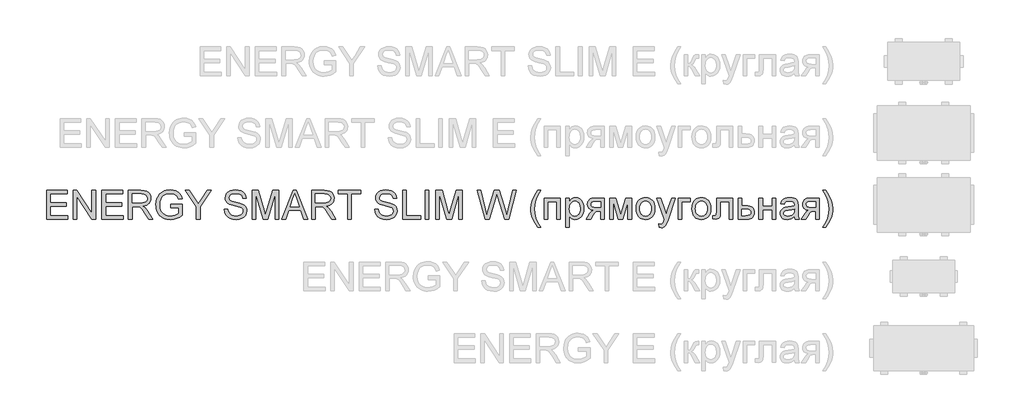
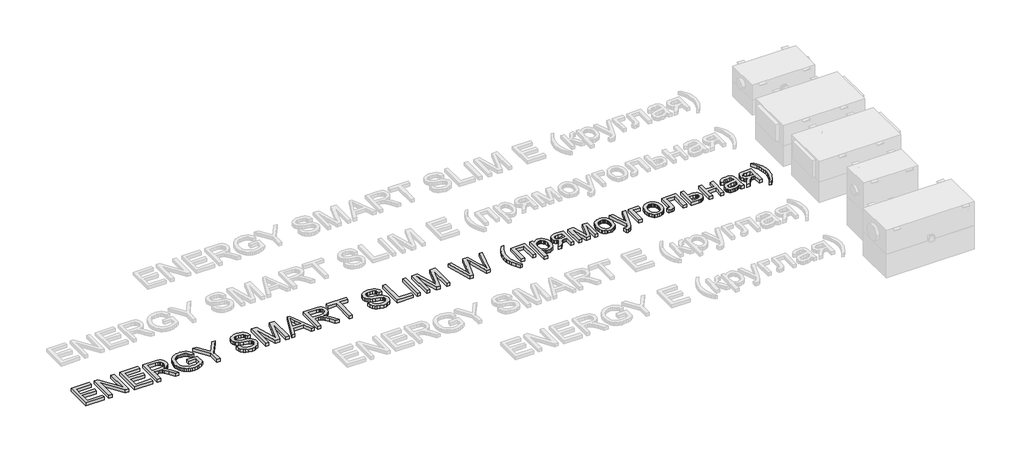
# One storey, part 25 of 28: 1 proxy.
"""IFC4 building model written with IfcOpenShell, lengths in millimetres."""

import ifcopenshell
import ifcopenshell.guid

model = None  # the IFC model being written
_history = None  # IfcOwnerHistory: only IFC2X3 demands one
_inside = {}  # id of a spatial element -> (the spatial element, [elements in it])
_under = {}  # id of a project, library or spatial element -> (it, [spatial elements below it])
_declared = {}  # id of a project -> (the project, [libraries it declares])
_typed = {}  # id of a type object -> (the type object, [elements of that type])
_made_of = {}  # id of a material, layer set ... -> (it, [elements and type objects made of it])


def new_model(schema):
    """Start an empty IFC model of exactly this schema.

    Asked for "IFC4X3", IfcOpenShell would pick the latest addendum, in which some entities
    have other attributes; the version numbers below select the first issue.
    IFC2X3 requires an IfcOwnerHistory on every rooted entity: one is made here for all.
    """
    global model, _history
    if schema == "IFC4X3":
        model = ifcopenshell.file(schema_version=(4, 3, 0, 0))
    else:
        model = ifcopenshell.file(schema=schema)
    _inside.clear()
    _under.clear()
    _declared.clear()
    _typed.clear()
    _made_of.clear()
    _history = None
    if model.schema == "IFC2X3":
        org = make("IfcOrganization", Name="unknown")
        user = make(
            "IfcPersonAndOrganization",
            ThePerson=make("IfcPerson", FamilyName="unknown"),
            TheOrganization=org,
        )
        app = make(
            "IfcApplication",
            ApplicationDeveloper=org,
            Version="unknown",
            ApplicationFullName="unknown",
            ApplicationIdentifier="unknown",
        )
        _history = make(
            "IfcOwnerHistory",
            OwningUser=user,
            OwningApplication=app,
            ChangeAction="ADDED",
            CreationDate=0,
        )
    return model


def make(cls, **values):
    """One entity of the class cls with the attributes given. An attribute that is None is left unset."""
    return model.create_entity(
        cls, **{name: value for name, value in values.items() if value is not None}
    )


def rooted(cls, **values):
    """An entity with a GlobalId (a new one), such as an element, a storey or a relation."""
    return make(cls, GlobalId=ifcopenshell.guid.new(), OwnerHistory=_history, **values)


def si_unit(unit_type, name, prefix=None):
    """IfcSIUnit, for example si_unit("LENGTHUNIT", "METRE", prefix="MILLI")."""
    return make("IfcSIUnit", UnitType=unit_type, Prefix=prefix, Name=name)


def assignment(units):
    """IfcUnitAssignment: the units of a project."""
    return None if units is None else make("IfcUnitAssignment", Units=units)


def point(xyz):
    """IfcCartesianPoint."""
    return None if xyz is None else make("IfcCartesianPoint", Coordinates=xyz)


def direction(xyz):
    """IfcDirection."""
    return None if xyz is None else make("IfcDirection", DirectionRatios=xyz)


def frame(location, z_axis=None, x_axis=None):
    """IfcAxis2Placement3D, a coordinate frame: its origin and axes. An axis left out is left unset."""
    return make(
        "IfcAxis2Placement3D",
        Location=point(location),
        Axis=direction(z_axis),
        RefDirection=direction(x_axis),
    )


def origin():
    """The frame at (0, 0, 0) with its axes left unset."""
    return frame((0.0, 0.0, 0.0))


def origin_with_axes():
    """The frame at (0, 0, 0) with the z axis (0, 0, 1) and the x axis (1, 0, 0) written out."""
    return frame((0.0, 0.0, 0.0), z_axis=(0.0, 0.0, 1.0), x_axis=(1.0, 0.0, 0.0))


def place(relative_to, where):
    """IfcLocalPlacement: puts the frame where relative to a parent placement (None: the world)."""
    return make(
        "IfcLocalPlacement", PlacementRelTo=relative_to, RelativePlacement=where
    )


def context(
    kind, dimensions, precision=None, world=None, true_north=None, identifier=None
):
    """IfcGeometricRepresentationContext, for example the 3D "Model" context."""
    return make(
        "IfcGeometricRepresentationContext",
        ContextIdentifier=identifier,
        ContextType=kind,
        CoordinateSpaceDimension=dimensions,
        Precision=precision,
        WorldCoordinateSystem=world,
        TrueNorth=true_north,
    )


def project(units=None, contexts=None):
    """IfcProject with its units and contexts."""
    return rooted(
        "IfcProject",
        Name="project",
        RepresentationContexts=contexts,
        UnitsInContext=assignment(units),
    )


def spatial(cls, under=None, at=None, **own):
    """A site, building, storey or space (cls), placed at a placement, below another one or the project."""
    s = rooted(cls, ObjectPlacement=at, **own)
    if under is not None:
        _under.setdefault(under.id(), (under, []))[1].append(s)
    return s


def polyline(points):
    """IfcPolyline through the points."""
    return make("IfcPolyline", Points=[point(p) for p in points])


def outline(outer, holes=None, kind="AREA"):
    """IfcArbitraryClosedProfileDef: a profile drawn as a closed curve; with holes, ...WithVoids."""
    if holes is None:
        return make("IfcArbitraryClosedProfileDef", ProfileType=kind, OuterCurve=outer)
    return make(
        "IfcArbitraryProfileDefWithVoids",
        ProfileType=kind,
        OuterCurve=outer,
        InnerCurves=holes,
    )


def extrude(swept, where, along, depth):
    """IfcExtrudedAreaSolid: the profile swept, set in the frame where, extruded along a direction by depth."""
    return make(
        "IfcExtrudedAreaSolid",
        SweptArea=swept,
        Position=where,
        ExtrudedDirection=direction(along),
        Depth=depth,
    )


def shape(context_of_items, identifier, shape_type, items):
    """IfcShapeRepresentation: the items that make up one representation, for example the "Body"."""
    return make(
        "IfcShapeRepresentation",
        ContextOfItems=context_of_items,
        RepresentationIdentifier=identifier,
        RepresentationType=shape_type,
        Items=items,
    )


def made_of(thing, what):
    """Note that an element or type object is made of a material, layer set ...; save() writes the relation."""
    if what is not None:
        _made_of.setdefault(what.id(), (what, []))[1].append(thing)
    return thing


def element(
    cls,
    number,
    at=None,
    inside=None,
    cuts=None,
    type_object=None,
    material=None,
    context=None,
    identifier="Body",
    shape_type=None,
    held_by="IfcProductDefinitionShape",
    body=None,
    shapes=None,
    **own,
):
    """One element of the class cls, such as IfcWall. Its Tag is "e" and its number.

    at: its placement. inside: the storey or other place that contains it. cuts: it is an
    opening in that element (IfcRelVoidsElement). A single representation is given by context,
    identifier, shape_type and body (its items); several are given by shapes. held_by: the class
    of the entity that holds the representations. save() writes the other relations.
    """
    e = rooted(cls, Tag="e%d" % number, ObjectPlacement=at, **own)
    if body is not None:
        shapes = [shape(context, identifier, shape_type, body)]
    if shapes is not None:
        e.Representation = make(held_by, Representations=shapes)
    if inside is not None:
        _inside.setdefault(inside.id(), (inside, []))[1].append(e)
    if cuts is not None:
        rooted(
            "IfcRelVoidsElement", RelatingBuildingElement=cuts, RelatedOpeningElement=e
        )
    if type_object is not None:
        _typed.setdefault(type_object.id(), (type_object, []))[1].append(e)
    return made_of(e, material)


def aggregate(whole, parts):
    """IfcRelAggregates: a whole, such as a stair, and the parts it consists of."""
    return rooted("IfcRelAggregates", RelatingObject=whole, RelatedObjects=parts)


def save(model, path):
    """Write the relations noted so far, then the file.

    IfcRelAggregates (storeys below a building ...), IfcRelContainedInSpatialStructure (elements
    in a storey), IfcRelDefinesByType, IfcRelAssociatesMaterial and IfcRelDeclares: one each for
    every whole, place, type object, material and project.
    """
    for whole, parts in _under.values():
        aggregate(whole, parts)
    for where, things in _inside.values():
        rooted(
            "IfcRelContainedInSpatialStructure",
            RelatedElements=things,
            RelatingStructure=where,
        )
    for kind, things in _typed.values():
        rooted("IfcRelDefinesByType", RelatedObjects=things, RelatingType=kind)
    for what, things in _made_of.values():
        rooted("IfcRelAssociatesMaterial", RelatedObjects=things, RelatingMaterial=what)
    for by, libraries in _declared.values():
        rooted("IfcRelDeclares", RelatingContext=by, RelatedDefinitions=libraries)
    model.write(path)


model = new_model("IFC4")

# Units and contexts
model_context = context("Model", 3, world=origin())
ifc_project = project(units=[si_unit("LENGTHUNIT", "METRE", prefix="MILLI")], contexts=[model_context])

# Site, building, storey
site = spatial("IfcSite", under=ifc_project)
building = spatial("IfcBuilding", under=site)
storey = spatial("IfcBuildingStorey", under=building, Name="Уровень 1", Elevation=0.0)

# Proxy
placement = place(None, origin())
element("IfcBuildingElementProxy", 1, Name="400 мм Arial", ObjectType="400 мм Arial", at=placement, inside=storey, context=model_context, shape_type="SweptSolid", body=[
    extrude(outline(polyline([(-32916.0099555, 20271.3067858), (-32916.0099555, 20673.1320263), (-32627.1980638, 20673.1320263), (-32627.1980638, 20622.9038713), (-32865.7818004, 20622.9038713), (-32865.7818004, 20503.612003), (-32639.7551025, 20503.612003), (-32639.7551025, 20453.3838479), (-32865.7818004, 20453.3838479), (-32865.7818004, 20321.5349408), (-32620.9195444, 20321.5349408), (-32620.9195444, 20271.3067858), (-32916.0099555, 20271.3067858)])), origin_with_axes(), (0.0, 0.0, 1.0), 50.0),
    extrude(outline(polyline([(-32545.5773118, 20271.3067858), (-32545.5773118, 20673.1320263), (-32491.8174896, 20673.1320263), (-32281.8794976, 20354.7914732), (-32281.8794976, 20673.1320263), (-32231.6513426, 20673.1320263), (-32231.6513426, 20271.3067858), (-32285.4111648, 20271.3067858), (-32495.3491567, 20589.7454408), (-32495.3491567, 20271.3067858), (-32545.5773118, 20271.3067858)])), origin_with_axes(), (0.0, 0.0, 1.0), 50.0),
    extrude(outline(polyline([(-32143.7520712, 20271.3067858), (-32143.7520712, 20673.1320263), (-31854.9401795, 20673.1320263), (-31854.9401795, 20622.9038713), (-32093.5239161, 20622.9038713), (-32093.5239161, 20503.612003), (-31867.4972183, 20503.612003), (-31867.4972183, 20453.3838479), (-32093.5239161, 20453.3838479), (-32093.5239161, 20321.5349408), (-31848.6616601, 20321.5349408), (-31848.6616601, 20271.3067858), (-32143.7520712, 20271.3067858)])), origin_with_axes(), (0.0, 0.0, 1.0), 50.0),
    extrude(outline(polyline([(-31773.3194275, 20271.3067858), (-31773.3194275, 20673.1320263), (-31600.1696351, 20673.1320263), (-31553.6325627, 20670.4219623), (-31519.7751564, 20662.2917702), (-31495.0289609, 20647.2821848), (-31475.8255207, 20623.9339409), (-31463.5014739, 20594.9816278), (-31459.3934583, 20563.1598353), (-31461.0949125, 20542.5216553), (-31466.1992752, 20523.5757326), (-31474.7065463, 20506.322067), (-31486.6167259, 20490.7606586), (-31502.0830981, 20477.3881481), (-31521.2589471, 20466.7011761), (-31544.1442729, 20458.6997427), (-31570.7390755, 20453.3838479), (-31542.1914327, 20431.8995394), (-31501.4791585, 20380.1998563), (-31434.4755845, 20271.3067858), (-31492.8461944, 20271.3067858), (-31545.1344886, 20354.5952695), (-31582.9037068, 20409.7285178), (-31596.9445363, 20425.804961), (-31609.4402614, 20435.7745631), (-31633.3280656, 20445.3394949), (-31662.4643196, 20447.1053285), (-31723.0912724, 20447.1053285), (-31723.0912724, 20271.3067858), (-31773.3194275, 20271.3067858)]), holes=[polyline([(-31723.0912724, 20497.3334836), (-31610.6665347, 20497.3334836), (-31578.3787583, 20499.1115799), (-31553.3259944, 20504.4458688), (-31534.4659108, 20513.6919696), (-31520.7561751, 20527.2055016), (-31512.4052538, 20543.5517249), (-31509.6216134, 20561.2958998), (-31514.9313768, 20585.7968407), (-31530.8606672, 20605.5398411), (-31543.0222328, 20613.1366043), (-31558.2678759, 20618.5628637), (-31598.0113941, 20622.9038713), (-31723.0912724, 20622.9038713), (-31723.0912724, 20497.3334836)])]), origin_with_axes(), (0.0, 0.0, 1.0), 50.0),
    extrude(outline(polyline([(-31183.1386054, 20428.2697704), (-31183.1386054, 20478.4979254), (-31019.8971014, 20478.4979254), (-31019.8971014, 20328.3039695), (-31059.5670432, 20300.7128199), (-31100.4877838, 20280.9207686), (-31142.5612213, 20269.0013919), (-31185.6892539, 20265.0282664), (-31214.5403993, 20266.6070933), (-31242.0365128, 20271.343574), (-31268.1775942, 20279.2377084), (-31292.9636437, 20290.2894967), (-31315.5945177, 20304.3333919), (-31335.2700731, 20321.203847), (-31351.9903098, 20340.9008622), (-31365.7552278, 20363.4244373), (-31376.5065791, 20388.0541369), (-31384.1861157, 20414.0695253), (-31388.7938377, 20441.4706026), (-31390.3297451, 20470.2573687), (-31384.2106412, 20526.8498823), (-31376.5617614, 20553.6654141), (-31365.8533296, 20579.4937958), (-31352.2754183, 20603.2007247), (-31336.0180998, 20623.651898), (-31317.0813741, 20640.8473156), (-31295.4652412, 20654.7869775), (-31271.6387507, 20665.5597886), (-31246.070952, 20673.2546537), (-31218.7618452, 20677.8715727), (-31189.7114304, 20679.4105457), (-31148.3369686, 20675.8420904), (-31111.1318362, 20665.1367243), (-31079.8005529, 20648.0669997), (-31056.0476388, 20625.4054688), (-31038.4751421, 20596.0607484), (-31025.6851114, 20558.941455), (-31071.9891919, 20545.893907), (-31082.326676, 20572.3691479), (-31094.8959775, 20592.3451402), (-31111.5242436, 20607.4037765), (-31134.0386218, 20619.1269495), (-31160.8817447, 20626.6685304), (-31190.4962453, 20629.1823907), (-31225.162992, 20626.4723266), (-31254.802018, 20618.3421345), (-31279.3029589, 20605.8096212), (-31298.55545, 20589.8925936), (-31313.3320435, 20571.4126547), (-31324.4052915, 20551.1914077), (-31336.1775154, 20513.2750367), (-31340.10159, 20472.3175079), (-31335.3804377, 20424.2843821), (-31321.2169809, 20384.7615931), (-31298.0404152, 20354.0311837), (-31266.2799363, 20332.375197), (-31229.111592, 20319.5361153), (-31189.7114304, 20315.2564214), (-31154.9220563, 20318.4815203), (-31120.9910737, 20328.1568167), (-31091.5237258, 20341.4864077), (-31070.1252565, 20355.67439), (-31070.1252565, 20428.2697704), (-31183.1386054, 20428.2697704)])), origin_with_axes(), (0.0, 0.0, 1.0), 50.0),
    extrude(outline(polyline([(-30825.2630005, 20271.3067858), (-30825.2630005, 20441.5135222), (-30982.2259851, 20673.1320263), (-30922.9724584, 20673.1320263), (-30839.1934654, 20549.4255741), (-30796.3229502, 20486.3460747), (-30753.3543331, 20553.9382599), (-30677.3253875, 20673.1320263), (-30618.0718608, 20673.1320263), (-30775.0348454, 20441.5135222), (-30775.0348454, 20271.3067858), (-30825.2630005, 20271.3067858)])), origin_with_axes(), (0.0, 0.0, 1.0), 50.0),
    extrude(outline(polyline([(-30435.9947986, 20409.4342122), (-30385.7666436, 20409.4342122), (-30380.003159, 20381.5610197), (-30369.5798358, 20359.1570062), (-30353.3194516, 20341.3760431), (-30330.044784, 20327.3720018), (-30301.5952431, 20318.2853165), (-30269.8102387, 20315.2564214), (-30241.8266816, 20317.5495525), (-30217.3257407, 20324.4289459), (-30197.4723757, 20335.3182529), (-30183.4315462, 20349.6411253), (-30175.0806249, 20366.0854504), (-30172.2969845, 20383.339116), (-30174.3816491, 20400.1513232), (-30180.6356431, 20414.682662), (-30193.3398346, 20427.0802852), (-30214.7750922, 20437.4913457), (-30287.9100328, 20456.6702604), (-30335.9186332, 20469.3621892), (-30366.6367798, 20481.4409814), (-30391.6404928, 20498.3390277), (-30409.3601422, 20518.8177921), (-30419.9183555, 20542.4358162), (-30423.4377599, 20568.7516416), (-30419.0844896, 20598.1699385), (-30406.0246788, 20625.6016726), (-30384.6016839, 20648.8518147), (-30355.1588616, 20665.7253355), (-30319.8176646, 20675.9892432), (-30280.6995457, 20679.4105457), (-30238.3195399, 20675.8298276), (-30201.2370348, 20665.0876734), (-30170.7764056, 20647.4048122), (-30148.2620275, 20623.0019731), (-30134.0127315, 20593.3997353), (-30128.3473488, 20560.1186774), (-30178.5755039, 20560.1186774), (-30187.7970792, 20590.0887973), (-30196.1602633, 20601.9468603), (-30207.0250448, 20611.7202586), (-30237.0687411, 20624.8168576), (-30278.7375084, 20629.1823907), (-30321.3872944, 20624.8659086), (-30337.6905982, 20619.470306), (-30350.6461758, 20611.9164624), (-30367.5687475, 20592.860175), (-30373.2096048, 20570.2231696), (-30369.2119538, 20550.9216276), (-30357.2190007, 20535.3970074), (-30328.8675616, 20521.5155934), (-30275.2058413, 20507.3398739), (-30219.8273383, 20493.8753928), (-30186.3255512, 20482.1276945), (-30157.6920693, 20463.905273), (-30137.716077, 20441.4154203), (-30125.9806413, 20414.9033912), (-30122.0688294, 20384.6144403), (-30126.5692525, 20353.651039), (-30140.0705217, 20324.5270477), (-30162.0208141, 20299.4620211), (-30191.8683066, 20280.6755139), (-30227.7613266, 20268.9400782), (-30267.8482014, 20265.0282664), (-30317.0585496, 20269.2466466), (-30357.5623573, 20281.9017872), (-30389.8256082, 20303.0427392), (-30414.3142864, 20332.7185535), (-30430.0351103, 20368.8690909), (-30435.9947986, 20409.4342122)])), origin_with_axes(), (0.0, 0.0, 1.0), 50.0),
    extrude(outline(polyline([(-30046.7265968, 20271.3067858), (-30046.7265968, 20673.1320263), (-29960.2988534, 20673.1320263), (-29878.0894902, 20389.911941), (-29861.510275, 20330.7565162), (-29843.5576336, 20394.8170343), (-29762.7216965, 20673.1320263), (-29676.2939531, 20673.1320263), (-29676.2939531, 20271.3067858), (-29726.5221082, 20271.3067858), (-29726.5221082, 20622.9038713), (-29827.4689277, 20271.3067858), (-29895.5516223, 20271.3067858), (-29996.4984417, 20622.9038713), (-29996.4984417, 20271.3067858), (-30046.7265968, 20271.3067858)])), origin_with_axes(), (0.0, 0.0, 1.0), 50.0),
    extrude(outline(polyline([(-29635.1892715, 20271.3067858), (-29474.7927216, 20673.1320263), (-29432.0203083, 20673.1320263), (-29271.6237584, 20271.3067858), (-29324.6968676, 20271.3067858), (-29370.7066425, 20396.8771734), (-29536.2044894, 20396.8771734), (-29582.1161624, 20271.3067858), (-29635.1892715, 20271.3067858)]), holes=[polyline([(-29517.7613387, 20447.1053285), (-29389.0516913, 20447.1053285), (-29425.2512796, 20545.893907), (-29453.406515, 20622.9038713), (-29478.4224907, 20554.5268711), (-29517.7613387, 20447.1053285)])]), origin_with_axes(), (0.0, 0.0, 1.0), 50.0),
    extrude(outline(polyline([(-29217.9620381, 20271.3067858), (-29217.9620381, 20673.1320263), (-29044.8122457, 20673.1320263), (-28998.2751733, 20670.4219623), (-28964.417767, 20662.2917702), (-28939.6715715, 20647.2821848), (-28920.4681313, 20623.9339409), (-28908.1440845, 20594.9816278), (-28904.0360689, 20563.1598353), (-28905.7375231, 20542.5216553), (-28910.8418858, 20523.5757326), (-28919.3491569, 20506.322067), (-28931.2593365, 20490.7606586), (-28946.7257087, 20477.3881481), (-28965.9015577, 20466.7011761), (-28988.7868835, 20458.6997427), (-29015.3816861, 20453.3838479), (-28986.8340432, 20431.8995394), (-28946.1217691, 20380.1998563), (-28879.1181951, 20271.3067858), (-28937.488805, 20271.3067858), (-28989.7770992, 20354.5952695), (-29027.5463174, 20409.7285178), (-29041.5871469, 20425.804961), (-29054.082872, 20435.7745631), (-29077.9706762, 20445.3394949), (-29107.1069302, 20447.1053285), (-29167.733883, 20447.1053285), (-29167.733883, 20271.3067858), (-29217.9620381, 20271.3067858)]), holes=[polyline([(-29167.733883, 20497.3334836), (-29055.3091453, 20497.3334836), (-29023.0213688, 20499.1115799), (-28997.968605, 20504.4458688), (-28979.1085213, 20513.6919696), (-28965.3987857, 20527.2055016), (-28957.0478644, 20543.5517249), (-28954.2642239, 20561.2958998), (-28959.5739874, 20585.7968407), (-28975.5032778, 20605.5398411), (-28987.6648434, 20613.1366043), (-29002.9104864, 20618.5628637), (-29042.6540046, 20622.9038713), (-29167.733883, 20622.9038713), (-29167.733883, 20497.3334836)])]), origin_with_axes(), (0.0, 0.0, 1.0), 50.0),
    extrude(outline(polyline([(-28715.6804873, 20271.3067858), (-28715.6804873, 20622.9038713), (-28847.5293944, 20622.9038713), (-28847.5293944, 20673.1320263), (-28533.6034252, 20673.1320263), (-28533.6034252, 20622.9038713), (-28665.4523323, 20622.9038713), (-28665.4523323, 20271.3067858), (-28715.6804873, 20271.3067858)])), origin_with_axes(), (0.0, 0.0, 1.0), 50.0),
    extrude(outline(polyline([(-28338.9693243, 20409.4342122), (-28288.7411692, 20409.4342122), (-28282.9776846, 20381.5610197), (-28272.5543614, 20359.1570062), (-28256.2939772, 20341.3760431), (-28233.0193097, 20327.3720018), (-28204.5697687, 20318.2853165), (-28172.7847643, 20315.2564214), (-28144.8012072, 20317.5495525), (-28120.3002663, 20324.4289459), (-28100.4469013, 20335.3182529), (-28086.4060718, 20349.6411253), (-28078.0551506, 20366.0854504), (-28075.2715101, 20383.339116), (-28077.3561748, 20400.1513232), (-28083.6101687, 20414.682662), (-28096.3143602, 20427.0802852), (-28117.7496178, 20437.4913457), (-28190.8845585, 20456.6702604), (-28238.8931588, 20469.3621892), (-28269.6113054, 20481.4409814), (-28294.6150184, 20498.3390277), (-28312.3346678, 20518.8177921), (-28322.8928811, 20542.4358162), (-28326.4122855, 20568.7516416), (-28322.0590152, 20598.1699385), (-28308.9992044, 20625.6016726), (-28287.5762095, 20648.8518147), (-28258.1333872, 20665.7253355), (-28222.7921902, 20675.9892432), (-28183.6740714, 20679.4105457), (-28141.2940655, 20675.8298276), (-28104.2115604, 20665.0876734), (-28073.7509312, 20647.4048122), (-28051.2365531, 20623.0019731), (-28036.9872572, 20593.3997353), (-28031.3218744, 20560.1186774), (-28081.5500295, 20560.1186774), (-28090.7716049, 20590.0887973), (-28099.1347889, 20601.9468603), (-28109.9995705, 20611.7202586), (-28140.0432667, 20624.8168576), (-28181.7120341, 20629.1823907), (-28224.36182, 20624.8659086), (-28240.6651238, 20619.470306), (-28253.6207014, 20611.9164624), (-28270.5432732, 20592.860175), (-28276.1841304, 20570.2231696), (-28272.1864794, 20550.9216276), (-28260.1935264, 20535.3970074), (-28231.8420873, 20521.5155934), (-28178.1803669, 20507.3398739), (-28122.8018639, 20493.8753928), (-28089.3000769, 20482.1276945), (-28060.6665949, 20463.905273), (-28040.6906026, 20441.4154203), (-28028.9551669, 20414.9033912), (-28025.043355, 20384.6144403), (-28029.5437781, 20353.651039), (-28043.0450473, 20324.5270477), (-28064.9953397, 20299.4620211), (-28094.8428323, 20280.6755139), (-28130.7358523, 20268.9400782), (-28170.822727, 20265.0282664), (-28220.0330752, 20269.2466466), (-28260.5368829, 20281.9017872), (-28292.8001339, 20303.0427392), (-28317.288812, 20332.7185535), (-28333.0096359, 20368.8690909), (-28338.9693243, 20409.4342122)])), origin_with_axes(), (0.0, 0.0, 1.0), 50.0),
    extrude(outline(polyline([(-27949.7011224, 20271.3067858), (-27949.7011224, 20673.1320263), (-27899.4729674, 20673.1320263), (-27899.4729674, 20321.5349408), (-27698.5603471, 20321.5349408), (-27698.5603471, 20271.3067858), (-27949.7011224, 20271.3067858)])), origin_with_axes(), (0.0, 0.0, 1.0), 50.0),
    extrude(outline(polyline([(-27635.7751532, 20271.3067858), (-27635.7751532, 20673.1320263), (-27585.5469981, 20673.1320263), (-27585.5469981, 20271.3067858), (-27635.7751532, 20271.3067858)])), origin_with_axes(), (0.0, 0.0, 1.0), 50.0),
    extrude(outline(polyline([(-27485.090688, 20271.3067858), (-27485.090688, 20673.1320263), (-27398.6629446, 20673.1320263), (-27316.4535814, 20389.911941), (-27299.8743662, 20330.7565162), (-27281.9217248, 20394.8170343), (-27201.0857877, 20673.1320263), (-27114.6580443, 20673.1320263), (-27114.6580443, 20271.3067858), (-27164.8861994, 20271.3067858), (-27164.8861994, 20622.9038713), (-27265.8330189, 20271.3067858), (-27333.9157134, 20271.3067858), (-27434.8625329, 20622.9038713), (-27434.8625329, 20271.3067858), (-27485.090688, 20271.3067858)])), origin_with_axes(), (0.0, 0.0, 1.0), 50.0),
    extrude(outline(polyline([(-26797.887121, 20271.3067858), (-26907.4669046, 20673.1320263), (-26855.6691197, 20673.1320263), (-26792.0991109, 20409.0418047), (-26772.4787379, 20327.5191546), (-26751.4849387, 20399.6240257), (-26671.826224, 20673.1320263), (-26597.1707044, 20673.1320263), (-26539.2906039, 20474.8681564), (-26514.4953574, 20401.2917574), (-26496.223885, 20327.5191546), (-26477.1921231, 20406.68736), (-26413.0335031, 20673.1320263), (-26361.2357182, 20673.1320263), (-26470.9136037, 20271.3067858), (-26524.5753241, 20271.3067858), (-26620.9113559, 20581.3086804), (-26634.3513114, 20624.571603), (-26649.4589987, 20572.4795125), (-26737.2601682, 20271.3067858), (-26797.887121, 20271.3067858)])), origin_with_axes(), (0.0, 0.0, 1.0), 50.0),
    extrude(outline(polyline([(-26059.8667877, 20158.2934368), (-26098.7887028, 20212.9116504), (-26131.1868439, 20276.1137772), (-26143.933955, 20310.1673872), (-26153.0390344, 20344.8341339), (-26158.502082, 20380.1140172), (-26160.3230979, 20416.0070372), (-26154.8784444, 20478.424349), (-26138.5444838, 20538.1438596), (-26106.1218173, 20605.7850958), (-26059.8667877, 20673.1320263), (-26022.1956714, 20673.1320263), (-26069.186465, 20593.5714135), (-26085.2261199, 20555.8021954), (-26097.4398022, 20516.4633473), (-26106.9311577, 20466.2106668), (-26110.0949428, 20415.7127316), (-26104.6012384, 20351.3211197), (-26088.120125, 20286.9540333), (-26060.6516027, 20222.6114723), (-26022.1956714, 20158.2934368), (-26059.8667877, 20158.2934368)])), origin_with_axes(), (0.0, 0.0, 1.0), 50.0),
    extrude(outline(polyline([(-25971.9675164, 20566.3971968), (-25745.9408185, 20566.3971968), (-25745.9408185, 20271.3067858), (-25796.1689736, 20271.3067858), (-25796.1689736, 20516.1690417), (-25921.7393613, 20516.1690417), (-25921.7393613, 20271.3067858), (-25971.9675164, 20271.3067858), (-25971.9675164, 20566.3971968)])), origin_with_axes(), (0.0, 0.0, 1.0), 50.0),
    extrude(outline(polyline([(-25670.5985859, 20158.2934368), (-25670.5985859, 20566.3971968), (-25620.3704308, 20566.3971968), (-25620.3704308, 20517.1500604), (-25603.9874193, 20541.4425348), (-25585.6423705, 20558.7943022), (-25564.2561638, 20569.2053627), (-25538.7496788, 20572.6757162), (-25504.781908, 20567.8196739), (-25475.0815682, 20553.2515469), (-25450.8994584, 20529.854252), (-25433.4863773, 20498.510706), (-25422.9649522, 20461.5017773), (-25419.4578105, 20421.1083342), (-25423.4186734, 20378.1519799), (-25435.3012618, 20339.7328369), (-25454.7254311, 20307.8006797), (-25481.3110367, 20284.3052829), (-25512.2744379, 20269.8475205), (-25544.8319945, 20265.0282664), (-25567.9227211, 20268.2533652), (-25588.5363755, 20277.9286617), (-25606.1824486, 20292.5335769), (-25620.3704308, 20310.5475319), (-25620.3704308, 20158.2934368), (-25670.5985859, 20158.2934368)]), holes=[polyline([(-25620.3704308, 20416.4975465), (-25614.93804, 20371.4687903), (-25608.1475516, 20354.0311837), (-25598.6408677, 20339.9780915), (-25574.5936479, 20321.436839), (-25560.8317956, 20316.8015258), (-25545.911115, 20315.2564214), (-25530.7758366, 20316.8567081), (-25516.7625983, 20321.6575682), (-25503.8714, 20329.6590016), (-25492.1022419, 20340.8610083), (-25482.295121, 20355.4230039), (-25475.2900347, 20373.504404), (-25471.0869829, 20395.1052085), (-25469.6859656, 20420.2254174), (-25475.1551446, 20465.0089189), (-25481.9916184, 20482.5814156), (-25491.5626816, 20496.9410761), (-25515.5731132, 20516.0709399), (-25529.1786156, 20520.8534058), (-25543.8509758, 20522.4475611), (-25558.4773508, 20520.7522383), (-25572.2392031, 20515.6662697), (-25597.1693397, 20495.3223953), (-25607.3198171, 20480.2239051), (-25614.5701581, 20462.0536003), (-25618.9203626, 20440.8114807), (-25620.3704308, 20416.4975465)])]), origin_with_axes(), (0.0, 0.0, 1.0), 50.0),
    extrude(outline(polyline([(-25136.9244382, 20566.3971968), (-25136.9244382, 20271.3067858), (-25187.1525933, 20271.3067858), (-25187.1525933, 20384.3201347), (-25214.5230138, 20384.3201347), (-25236.3506788, 20382.7259794), (-25251.8017226, 20377.9435134), (-25266.6886807, 20364.037574), (-25286.8240885, 20335.0729982), (-25326.8496496, 20271.3067858), (-25384.9259539, 20271.3067858), (-25334.5015951, 20351.9465191), (-25312.2324717, 20380.8865694), (-25291.7291818, 20393.7379137), (-25326.0648347, 20404.2593388), (-25339.4066884, 20413.0701126), (-25350.1978936, 20424.2475939), (-25364.471715, 20450.8331994), (-25369.2296555, 20481.1466758), (-25367.6048433, 20499.2342072), (-25362.7304069, 20515.5313796), (-25354.6063462, 20530.038193), (-25343.2326611, 20542.7546473), (-25328.7810301, 20553.0982627), (-25311.4231313, 20560.4865594), (-25291.1589647, 20564.9195375), (-25267.9885304, 20566.3971968), (-25136.9244382, 20566.3971968)]), holes=[polyline([(-25187.1525933, 20516.1690417), (-25253.3713525, 20516.1690417), (-25287.5721153, 20513.262774), (-25306.9840219, 20504.5439707), (-25315.9971308, 20491.9256183), (-25319.0015004, 20477.3207031), (-25314.5746537, 20458.1785766), (-25301.2941137, 20444.8980365), (-25276.7563846, 20437.1357264), (-25238.5579708, 20434.5482897), (-25187.1525933, 20434.5482897), (-25187.1525933, 20516.1690417)])]), origin_with_axes(), (0.0, 0.0, 1.0), 50.0),
    extrude(outline(polyline([(-25061.5822056, 20566.3971968), (-24975.1544622, 20566.3971968), (-24908.5432956, 20330.167905), (-24836.7327302, 20566.3971968), (-24753.9347558, 20566.3971968), (-24753.9347558, 20271.3067858), (-24804.1629109, 20271.3067858), (-24804.1629109, 20508.9095037), (-24876.3658838, 20271.3067858), (-24942.2903373, 20271.3067858), (-25011.3540506, 20520.2893201), (-25011.3540506, 20271.3067858), (-25061.5822056, 20271.3067858), (-25061.5822056, 20566.3971968)])), origin_with_axes(), (0.0, 0.0, 1.0), 50.0),
    extrude(outline(polyline([(-24691.149562, 20418.8519913), (-24688.4333666, 20457.0687992), (-24680.2847804, 20490.0003692), (-24666.7038034, 20517.6467011), (-24647.6904356, 20540.007795), (-24628.5483091, 20554.3000105), (-24607.4196199, 20564.5087359), (-24584.3043678, 20570.6339711), (-24559.202553, 20572.6757162), (-24531.4918417, 20570.189447), (-24506.4360122, 20562.7306396), (-24484.0350644, 20550.2992938), (-24464.2889983, 20532.8954098), (-24448.1727012, 20511.1075986), (-24436.6610604, 20485.5244715), (-24429.754076, 20456.1460285), (-24427.4517478, 20422.9722696), (-24431.5229752, 20372.2290798), (-24443.7366575, 20333.6014703), (-24463.7371753, 20304.6736827), (-24491.1689094, 20283.0299587), (-24523.7509914, 20269.5286894), (-24559.202553, 20265.0282664), (-24587.3179345, 20267.5053385), (-24612.606756, 20274.9365548), (-24635.0690175, 20287.3219153), (-24654.704719, 20304.66142), (-24670.6493378, 20326.6607633), (-24682.0383512, 20353.0256396), (-24688.8717593, 20383.7560489), (-24691.149562, 20418.8519913)]), holes=[polyline([(-24640.9214069, 20418.9500931), (-24639.468273, 20394.587108), (-24635.1088714, 20373.4921413), (-24627.843202, 20355.6651929), (-24617.6712648, 20341.106263), (-24605.298167, 20329.7969573), (-24591.4290158, 20321.7188818), (-24576.0638111, 20316.8720365), (-24559.202553, 20315.2564214), (-24542.427134, 20316.8812336), (-24527.123243, 20321.75567), (-24513.29088, 20329.8797308), (-24500.930045, 20341.2534158), (-24490.7581078, 20355.9564328), (-24483.4924384, 20374.0684897), (-24479.1330368, 20395.5895865), (-24477.6799029, 20420.519723), (-24479.1422338, 20444.1101559), (-24483.5292266, 20464.6532997), (-24490.8408813, 20482.1491542), (-24501.0771978, 20496.5977196), (-24513.4840181, 20507.9070253), (-24527.307184, 20515.9851007), (-24542.5466957, 20520.831946), (-24559.202553, 20522.4475611), (-24576.0638111, 20520.8380774), (-24591.4290158, 20516.0096262), (-24605.298167, 20507.9622076), (-24617.6712648, 20496.6958215), (-24627.843202, 20482.1798111), (-24635.1088714, 20464.3835196), (-24639.468273, 20443.3069469), (-24640.9214069, 20418.9500931)])]), origin_with_axes(), (0.0, 0.0, 1.0), 50.0),
    extrude(outline(polyline([(-24370.9450734, 20158.2934368), (-24377.2235927, 20206.6576565), (-24351.7171077, 20202.2430725), (-24338.3016777, 20203.6287614), (-24327.8783545, 20207.7858279), (-24313.2611765, 20223.2368717), (-24299.5269154, 20260.221275), (-24295.6028407, 20272.3859063), (-24402.3376703, 20566.3971968), (-24349.362663, 20566.3971968), (-24292.7578866, 20402.5670816), (-24273.0394117, 20337.0350356), (-24253.3209368, 20394.9151361), (-24195.1465306, 20566.3971968), (-24142.5639308, 20566.3971968), (-24245.2765838, 20264.2434514), (-24271.9602912, 20198.7114054), (-24285.6209759, 20177.7911826), (-24301.0965452, 20163.296632), (-24319.073712, 20154.8353461), (-24340.2391895, 20152.0149174), (-24370.9450734, 20158.2934368)])), origin_with_axes(), (0.0, 0.0, 1.0), 50.0),
    extrude(outline(polyline([(-24100.9687398, 20566.3971968), (-23937.7272358, 20566.3971968), (-23937.7272358, 20516.1690417), (-24050.7405848, 20516.1690417), (-24050.7405848, 20271.3067858), (-24100.9687398, 20271.3067858), (-24100.9687398, 20566.3971968)])), origin_with_axes(), (0.0, 0.0, 1.0), 50.0),
    extrude(outline(polyline([(-23912.6131583, 20418.8519913), (-23909.8969629, 20457.0687992), (-23901.7483767, 20490.0003692), (-23888.1673997, 20517.6467011), (-23869.1540319, 20540.007795), (-23850.0119055, 20554.3000105), (-23828.8832162, 20564.5087359), (-23805.7679642, 20570.6339711), (-23780.6661494, 20572.6757162), (-23752.9554381, 20570.189447), (-23727.8996085, 20562.7306396), (-23705.4986607, 20550.2992938), (-23685.7525946, 20532.8954098), (-23669.6362975, 20511.1075986), (-23658.1246568, 20485.5244715), (-23651.2176723, 20456.1460285), (-23648.9153442, 20422.9722696), (-23652.9865716, 20372.2290798), (-23665.2002538, 20333.6014703), (-23685.2007716, 20304.6736827), (-23712.6325057, 20283.0299587), (-23745.2145878, 20269.5286894), (-23780.6661494, 20265.0282664), (-23808.7815308, 20267.5053385), (-23834.0703523, 20274.9365548), (-23856.5326138, 20287.3219153), (-23876.1683153, 20304.66142), (-23892.1129341, 20326.6607633), (-23903.5019476, 20353.0256396), (-23910.3353556, 20383.7560489), (-23912.6131583, 20418.8519913)]), holes=[polyline([(-23862.3850032, 20418.9500931), (-23860.9318693, 20394.587108), (-23856.5724677, 20373.4921413), (-23849.3067983, 20355.6651929), (-23839.1348611, 20341.106263), (-23826.7617634, 20329.7969573), (-23812.8926121, 20321.7188818), (-23797.5274075, 20316.8720365), (-23780.6661494, 20315.2564214), (-23763.8907304, 20316.8812336), (-23748.5868394, 20321.75567), (-23734.7544764, 20329.8797308), (-23722.3936413, 20341.2534158), (-23712.2217042, 20355.9564328), (-23704.9560348, 20374.0684897), (-23700.5966331, 20395.5895865), (-23699.1434992, 20420.519723), (-23700.6058302, 20444.1101559), (-23704.992823, 20464.6532997), (-23712.3044776, 20482.1491542), (-23722.5407941, 20496.5977196), (-23734.9476144, 20507.9070253), (-23748.7707804, 20515.9851007), (-23764.010292, 20520.831946), (-23780.6661494, 20522.4475611), (-23797.5274075, 20520.8380774), (-23812.8926121, 20516.0096262), (-23826.7617634, 20507.9622076), (-23839.1348611, 20496.6958215), (-23849.3067983, 20482.1798111), (-23856.5724677, 20464.3835196), (-23860.9318693, 20443.3069469), (-23862.3850032, 20418.9500931)])]), origin_with_axes(), (0.0, 0.0, 1.0), 50.0),
    extrude(outline(polyline([(-23567.2945922, 20566.3971968), (-23341.2678943, 20566.3971968), (-23341.2678943, 20271.6010913), (-23391.4960494, 20271.6010913), (-23391.4960494, 20516.1690417), (-23517.0664371, 20516.1690417), (-23517.0664371, 20375.3928649), (-23520.4509514, 20310.44943), (-23526.7907845, 20295.746413), (-23539.0412549, 20283.0299587), (-23557.6315584, 20274.237579), (-23582.9908906, 20271.3067858), (-23623.8012666, 20273.8574343), (-23623.8012666, 20321.5349408), (-23601.3359394, 20321.5349408), (-23578.6253576, 20324.6251496), (-23569.5509351, 20334.4353361), (-23567.2945922, 20378.237819), (-23567.2945922, 20566.3971968)])), origin_with_axes(), (0.0, 0.0, 1.0), 50.0),
    extrude(outline(polyline([(-23265.9256617, 20566.3971968), (-23215.6975066, 20566.3971968), (-23215.6975066, 20459.6623673), (-23157.8174061, 20459.6623673), (-23131.0969105, 20458.0896718), (-23107.6383019, 20453.3715852), (-23087.4415804, 20445.5081075), (-23070.5067459, 20434.4992388), (-23057.1158412, 20420.7251238), (-23047.5509094, 20404.5659071), (-23041.8119502, 20386.0215889), (-23039.8989639, 20365.0921691), (-23041.5268417, 20346.4190921), (-23046.4104752, 20329.1500981), (-23054.5498643, 20313.2851871), (-23065.9450091, 20298.824359), (-23080.920872, 20286.7854207), (-23099.8024154, 20278.1861791), (-23122.5896393, 20273.0266341), (-23149.2825438, 20271.3067858), (-23265.9256617, 20271.3067858), (-23265.9256617, 20566.3971968)]), holes=[polyline([(-23215.6975066, 20321.5349408), (-23168.804815, 20321.5349408), (-23132.4212857, 20324.1714285), (-23108.2269131, 20332.0808914), (-23094.6520675, 20345.5821606), (-23090.1271189, 20364.9940672), (-23093.4748451, 20381.4016042), (-23103.5180236, 20395.8961548), (-23112.2460239, 20401.8190549), (-23125.0391203, 20406.0496979), (-23162.8206012, 20409.4342122), (-23215.6975066, 20409.4342122), (-23215.6975066, 20321.5349408)])]), origin_with_axes(), (0.0, 0.0, 1.0), 50.0),
    extrude(outline(polyline([(-22977.11377, 20566.3971968), (-22926.885615, 20566.3971968), (-22926.885615, 20453.3838479), (-22795.0367079, 20453.3838479), (-22795.0367079, 20566.3971968), (-22744.8085528, 20566.3971968), (-22744.8085528, 20271.3067858), (-22795.0367079, 20271.3067858), (-22795.0367079, 20403.1556928), (-22926.885615, 20403.1556928), (-22926.885615, 20271.3067858), (-22977.11377, 20271.3067858), (-22977.11377, 20566.3971968)])), origin_with_axes(), (0.0, 0.0, 1.0), 50.0),
    extrude(outline(polyline([(-22481.1107387, 20308.9779021), (-22505.1089075, 20288.4010358), (-22529.8183148, 20274.9365548), (-22555.8030464, 20267.5053385), (-22583.627188, 20265.0282664), (-22605.9913476, 20266.5181884), (-22625.6025236, 20270.9879547), (-22642.4607161, 20278.4375651), (-22656.5659249, 20288.8670197), (-22667.7035523, 20301.6141308), (-22675.6590005, 20316.0167109), (-22680.4322693, 20332.07476), (-22682.023359, 20349.7882781), (-22679.6198633, 20370.610399), (-22672.4093762, 20389.5195335), (-22661.2870772, 20405.7063413), (-22647.1481458, 20418.361482), (-22630.5321424, 20427.9264138), (-22611.9786271, 20434.8425953), (-22568.5195007, 20442.396439), (-22517.1631742, 20450.3426901), (-22481.4050443, 20459.6623673), (-22481.1107387, 20470.8459799), (-22484.5688294, 20493.2622562), (-22494.9431017, 20507.928485), (-22518.1441928, 20518.8177921), (-22550.4687575, 20522.4475611), (-22580.3898264, 20520.0318027), (-22601.2855238, 20512.7845274), (-22615.5348197, 20499.38136), (-22625.5166845, 20478.4979254), (-22675.7448396, 20484.7764448), (-22667.0260363, 20512.2449671), (-22654.0152764, 20533.8273775), (-22635.4985493, 20550.3330164), (-22610.2618444, 20562.5712241), (-22579.396545, 20570.1495932), (-22543.9940344, 20572.6757162), (-22510.0385262, 20570.4438988), (-22483.1218269, 20563.7484465), (-22462.8270035, 20553.6807425), (-22448.7371231, 20541.3321702), (-22439.3929204, 20526.0650674), (-22433.3351302, 20507.241772), (-22430.8825836, 20463.2921363), (-22430.8825836, 20400.8012481), (-22428.3319351, 20313.5396388), (-22418.3255448, 20271.3067858), (-22468.5536999, 20271.3067858), (-22476.5980529, 20288.7689178), (-22481.1107387, 20308.9779021)]), holes=[polyline([(-22481.1107387, 20409.4342122), (-22514.8577804, 20401.0710282), (-22562.1428795, 20394.0322193), (-22605.3567512, 20385.8897645), (-22616.6016775, 20380.3224837), (-22624.9280733, 20372.6460127), (-22630.0784212, 20363.4489628), (-22631.7952039, 20353.3199452), (-22628.0550703, 20338.3839362), (-22616.8346694, 20326.1457285), (-22598.379256, 20317.9787482), (-22572.9340847, 20315.2564214), (-22545.9560717, 20318.2607911), (-22522.1173184, 20327.2739), (-22502.7912509, 20340.55444), (-22489.3512954, 20356.361103), (-22483.391607, 20372.6460127), (-22481.4050443, 20395.2094417), (-22481.1107387, 20409.4342122)])]), origin_with_axes(), (0.0, 0.0, 1.0), 50.0),
    extrude(outline(polyline([(-22135.7921725, 20566.3971968), (-22135.7921725, 20271.3067858), (-22186.0203276, 20271.3067858), (-22186.0203276, 20384.3201347), (-22213.390748, 20384.3201347), (-22235.2184131, 20382.7259794), (-22250.6694569, 20377.9435134), (-22265.556415, 20364.037574), (-22285.6918228, 20335.0729982), (-22325.7173839, 20271.3067858), (-22383.7936882, 20271.3067858), (-22333.3693294, 20351.9465191), (-22311.100206, 20380.8865694), (-22290.5969161, 20393.7379137), (-22324.932569, 20404.2593388), (-22338.2744227, 20413.0701126), (-22349.0656279, 20424.2475939), (-22363.3394493, 20450.8331994), (-22368.0973897, 20481.1466758), (-22366.4725776, 20499.2342072), (-22361.5981412, 20515.5313796), (-22353.4740804, 20530.038193), (-22342.1003954, 20542.7546473), (-22327.6487644, 20553.0982627), (-22310.2908656, 20560.4865594), (-22290.026699, 20564.9195375), (-22266.8562647, 20566.3971968), (-22135.7921725, 20566.3971968)]), holes=[polyline([(-22186.0203276, 20516.1690417), (-22252.2390867, 20516.1690417), (-22286.4398496, 20513.262774), (-22305.8517562, 20504.5439707), (-22314.864865, 20491.9256183), (-22317.8692347, 20477.3207031), (-22313.442388, 20458.1785766), (-22300.161848, 20444.8980365), (-22275.6241189, 20437.1357264), (-22237.4257051, 20434.5482897), (-22186.0203276, 20434.5482897), (-22186.0203276, 20516.1690417)])]), origin_with_axes(), (0.0, 0.0, 1.0), 50.0),
    extrude(outline(polyline([(-22047.8929011, 20158.2934368), (-22085.5640175, 20158.2934368), (-22047.1080862, 20222.6114723), (-22019.6395639, 20286.9540333), (-22003.1584505, 20351.3211197), (-21997.6647461, 20415.7127316), (-22000.8285312, 20465.8427848), (-22010.3198867, 20515.5804305), (-22022.3128397, 20554.992855), (-22038.2789183, 20592.7865986), (-22085.5640175, 20673.1320263), (-22047.8929011, 20673.1320263), (-22001.6378716, 20605.7850958), (-21969.2152051, 20538.1438596), (-21952.8812445, 20478.424349), (-21947.436591, 20416.0070372), (-21949.2668039, 20380.1140172), (-21954.7574427, 20344.8341339), (-21963.9085073, 20310.1673872), (-21976.7199978, 20276.1137772), (-22009.1549271, 20212.9116504), (-22047.8929011, 20158.2934368)])), origin_with_axes(), (0.0, 0.0, 1.0), 50.0),
])

save(model, "model.ifc")
